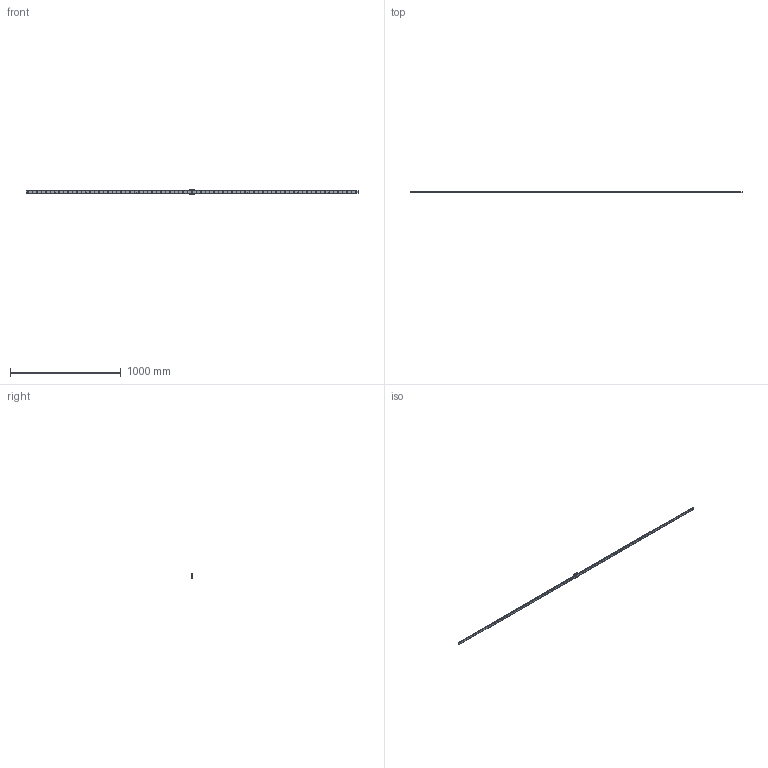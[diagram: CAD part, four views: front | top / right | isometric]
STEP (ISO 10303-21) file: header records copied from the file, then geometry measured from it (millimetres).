
FILE_DESCRIPTION(/* description */ ('STEP AP214'),/* implementation_level */ '2;1');
FILE_NAME(/* name */ 'SHW14CA1SSM-3000LTM_G20_0_Without_grease_nipple_1477-25_0_0_01',/* time_stamp */ '2024-02-12T10:02:52+01:00',/* author */ ('License CC BY-ND 4.0'),/* organization */ ('CADENAS'),/* preprocessor_version */ 'ST-DEVELOPER v19.3',/* originating_system */ 'PARTsolutions',/* authorisation */ ' ');
FILE_SCHEMA (('AUTOMOTIVE_DESIGN {1 0 10303 214 3 1 1}'));
Length unit declared in the file: millimetre
Products named in the file (4): SHW14CA1SSM-3000LTM_G20_0_Without_grease_nipple_1477-25_0_0_01; SHW14CAM300020 Track; SHW14CAMSS1 Slide12-50; -SHW_grease_nipple_joint
Assembly tree (3 placements, depth 2):
  SHW14CA1SSM-3000LTM_G20_0_Without_grease_nipple_1477-25_0_0_01
    SHW14CAM300020 Track
    SHW14CAMSS1 Slide12-50
    -SHW_grease_nipple_joint
Bounding box: 3000 x 14 x 50 mm (x, y, z)
Volume: 503242.1 mm3; surface area: 206253.3 mm2
Topology: 2 solids, 2 shells, 461 faces, 1140 edges, 761 vertices
Faces by surface type: cylinder 234, plane 219, cone 8
Full cylindrical faces by diameter (mm): 2.2 x2, 2.5 x6, 4.5 x75, 7.5 x75
Entity records: 13426 total; most frequent: DIRECTION 2394, CARTESIAN_POINT 2256, ORIENTED_EDGE 1932, AXIS2_PLACEMENT_3D 981, EDGE_CURVE 966, EDGE_LOOP 866, FACE_BOUND 866, VERTEX_POINT 752
